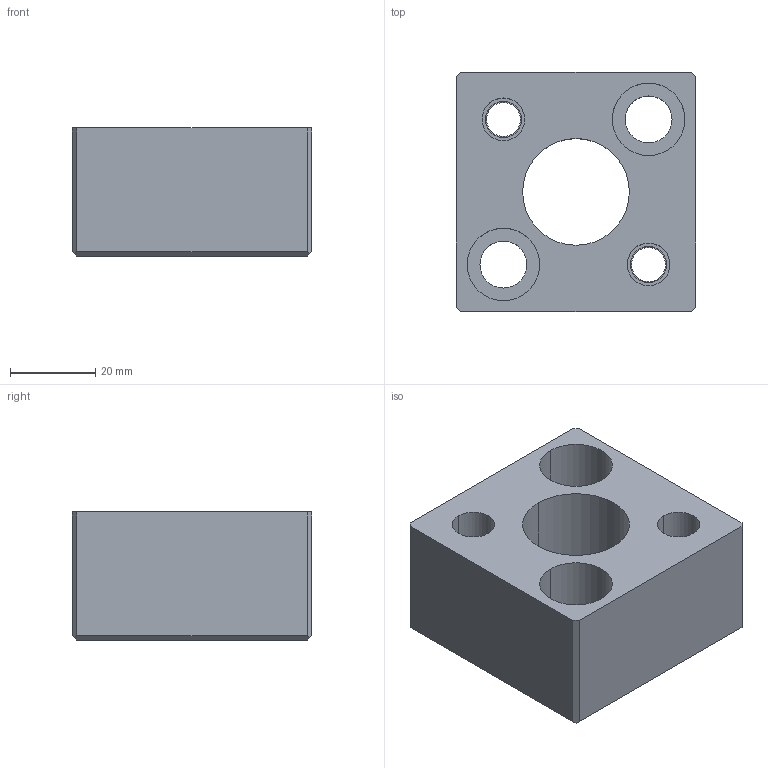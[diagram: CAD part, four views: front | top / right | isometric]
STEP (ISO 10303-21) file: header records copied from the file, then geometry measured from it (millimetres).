
FILE_DESCRIPTION(/* description */ (''),/* implementation_level */ '2;1');
FILE_NAME(/* name */ '3d_sa-fn25_05042_r00.stp',/* time_stamp */ '2011-01-10T14:11:29+09:00',/* author */ ('MISUMI'),/* organization */ (''),/* preprocessor_version */ 'ST-DEVELOPER v11',/* originating_system */ 'UGS - NX 5.0',/* authorisation */ '');
FILE_SCHEMA (('CONFIG_CONTROL_DESIGN'));
Length unit declared in the file: millimetre
Products named in the file (1): 3d_sa-fn25_05042_r00
Bounding box: 56 x 56 x 30 mm (x, y, z)
Volume: 64646.2 mm3; surface area: 17889.3 mm2
Topology: 1 solids, 1 shells, 47 faces, 116 edges, 77 vertices
Faces by surface type: cylinder 23, plane 22, cone 2
Entity records: 1520 total; most frequent: DIRECTION 260, CARTESIAN_POINT 246, ORIENTED_EDGE 232, EDGE_CURVE 116, AXIS2_PLACEMENT_3D 97, VERTEX_POINT 77, LINE 66, VECTOR 66
